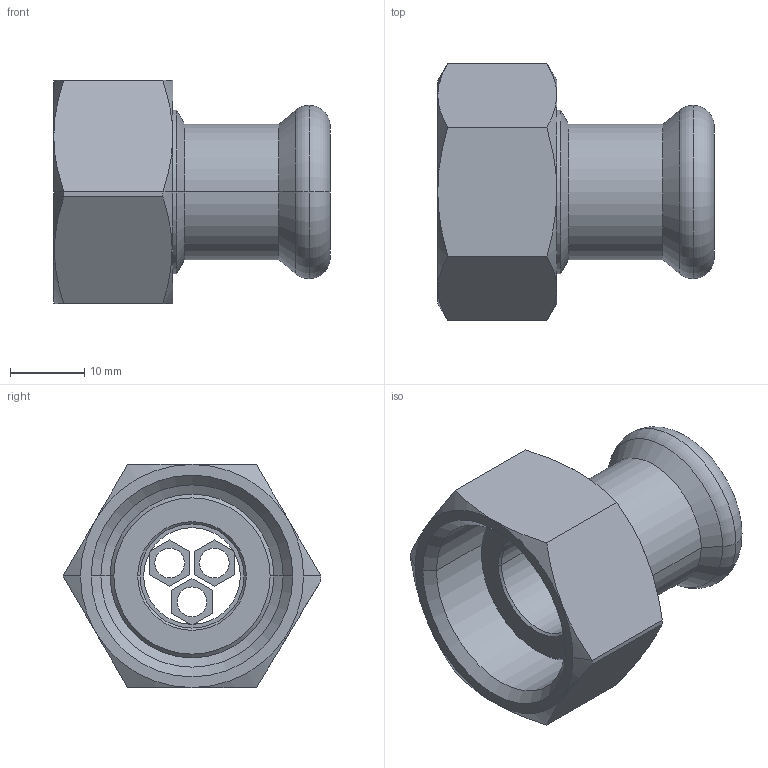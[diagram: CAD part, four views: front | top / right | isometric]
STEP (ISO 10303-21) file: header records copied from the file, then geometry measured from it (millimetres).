
FILE_DESCRIPTION(('OneSpaceDesigner STEP Export'),'2;1');
FILE_NAME('R2704 15xG3-4.stp','2010-06-09T 9:42:23',(''),(''),'OneSpace Designer STEP processor for AP214 (Solid Model)','OneSpace Modeling 15.00A 14-Mar-2007 (C) CoCreate Software GmbH','');
FILE_SCHEMA(('AUTOMOTIVE_DESIGN { 1 0 10303 214 1 1 1 1 }'));
Length unit declared in the file: millimetre
Products named in the file (2): R2704_15xG3-4nut
Assembly tree (1 placements, depth 2):
  R2704_15xG3-4nut
    R2704_15xG3-4nut
Bounding box: 37.16 x 34.64 x 30 mm (x, y, z)
Volume: 9467.4 mm3; surface area: 7325.6 mm2
Topology: 1 solids, 1 shells, 105 faces, 242 edges, 146 vertices
Faces by surface type: plane 39, cone 30, cylinder 28, torus 8
Entity records: 3443 total; most frequent: CARTESIAN_POINT 1311, ORIENTED_EDGE 484, DIRECTION 354, EDGE_CURVE 242, VERTEX_POINT 146, EDGE_LOOP 120, VECTOR 120, LINE 120
